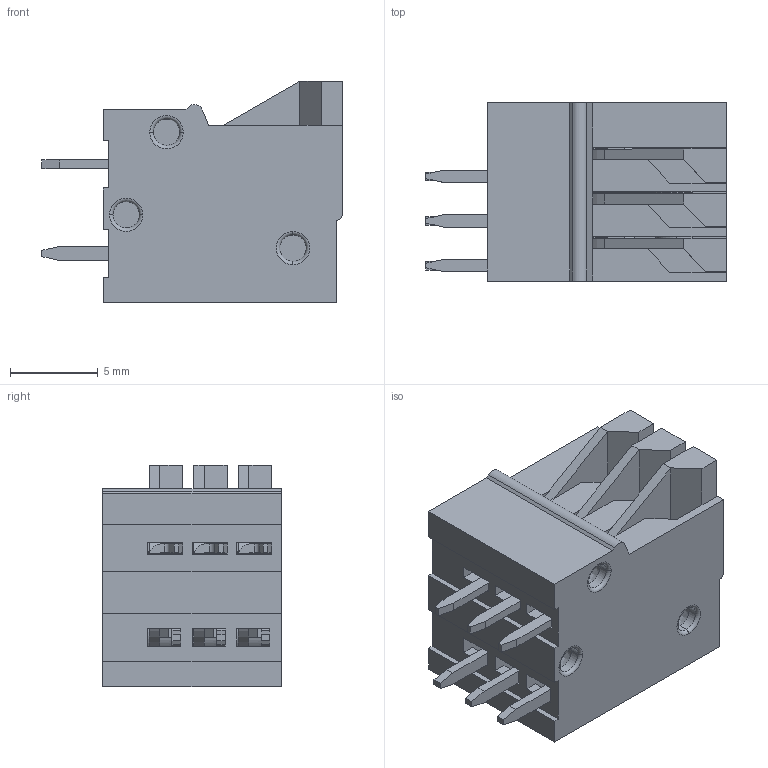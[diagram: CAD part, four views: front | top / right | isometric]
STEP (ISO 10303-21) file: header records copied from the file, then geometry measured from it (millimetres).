
FILE_DESCRIPTION((''),'2;1');
FILE_NAME('HA035080000AG_ASM','2016-12-20T',('exploitation'),(''),'CREO PARAMETRIC BY PTC INC, 2014500','CREO PARAMETRIC BY PTC INC, 2014500','');
FILE_SCHEMA(('CONFIG_CONTROL_DESIGN'));
Length unit declared in the file: millimetre
Products named in the file (1): HA035080000AG_ASM
Bounding box: 17.1 x 10.16 x 12.6 mm (x, y, z)
Volume: 888.6 mm3; surface area: 3022.5 mm2
Topology: 1 solids, 10 shells, 866 faces, 2472 edges, 1570 vertices
Faces by surface type: plane 588, cylinder 185, torus 42, bspline 42, cone 9
Entity records: 29170 total; most frequent: CARTESIAN_POINT 6168, ORIENTED_EDGE 4944, DIRECTION 4679, EDGE_CURVE 2472, VECTOR 1871, LINE 1871, VERTEX_POINT 1570, AXIS2_PLACEMENT_3D 1404
